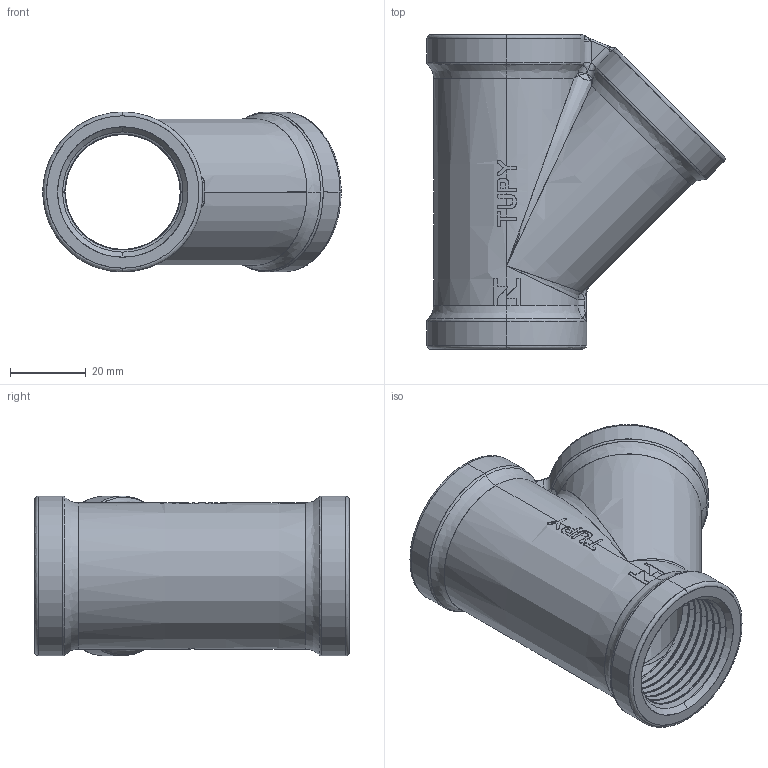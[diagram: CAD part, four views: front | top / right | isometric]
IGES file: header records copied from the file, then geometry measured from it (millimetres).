
Start section: SolidWorks IGES file using analytic representation for surfaces
Global section: file name: C:\Users\Joel Rosa\Desktop\Tubulação\12-54-XXX\12-54-007.IGS; native system: SolidWorks 2011; preprocessor: SolidWorks 2011; author: Joel Rosa; date: 121213.023911; units: millimetre
Bounding box: 78.74 x 83 x 42.2 mm (x, y, z)
Surface area: 30335.6 mm2 (no closed solid volume)
Topology: 0 solids, 0 shells, 413 faces, 3554 edges, 3536 vertices
Faces by surface type: bspline 278, revolution 135
